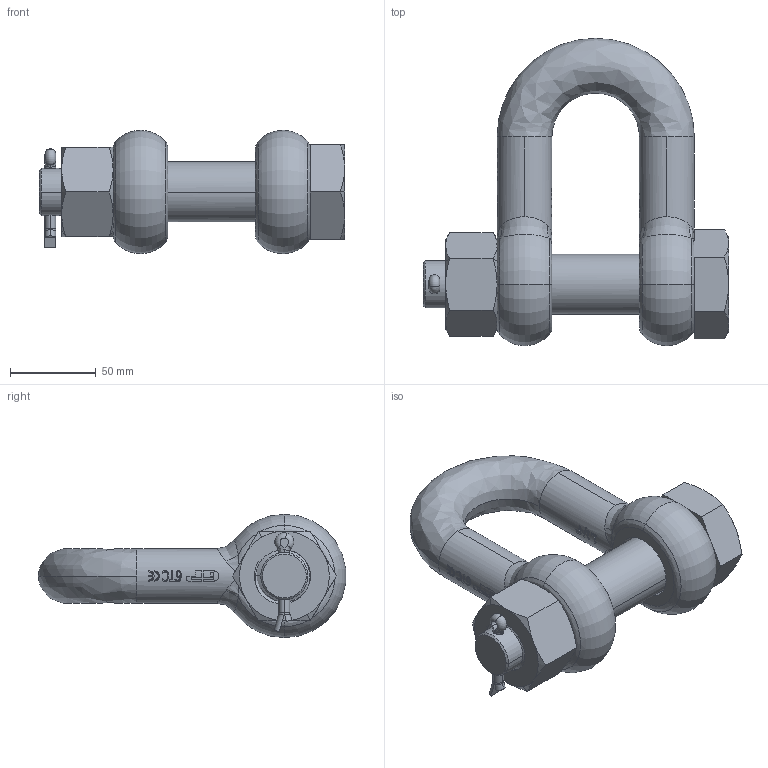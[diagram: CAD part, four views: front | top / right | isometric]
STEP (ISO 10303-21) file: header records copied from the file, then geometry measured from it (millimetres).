
FILE_DESCRIPTION(('STEP AP214'),'1');
FILE_NAME('gpgdmb32.stp','2017-04-21T13:23:51',('TraceParts'),('TraceParts S.A.'),'Spatial InterOp 3D',' ',' ');
FILE_SCHEMA(('automotive_design'));
Length unit declared in the file: millimetre
Products named in the file (4): gpgdmb32_1; gpgdmb32_2; gpgdmb32_3; gpgdmb32_4
Bounding box: 178 x 179.24 x 72 mm (x, y, z)
Volume: 589428.9 mm3; surface area: 94585.2 mm2
Topology: 4 solids, 4 shells, 682 faces, 1824 edges, 1188 vertices
Faces by surface type: plane 316, bspline 216, cylinder 112, cone 28, torus 10
Entity records: 36111 total; most frequent: CARTESIAN_POINT 20705, ORIENTED_EDGE 3632, DIRECTION 2446, EDGE_CURVE 1816, VERTEX_POINT 1188, LINE 918, VECTOR 918, AXIS2_PLACEMENT_3D 764
